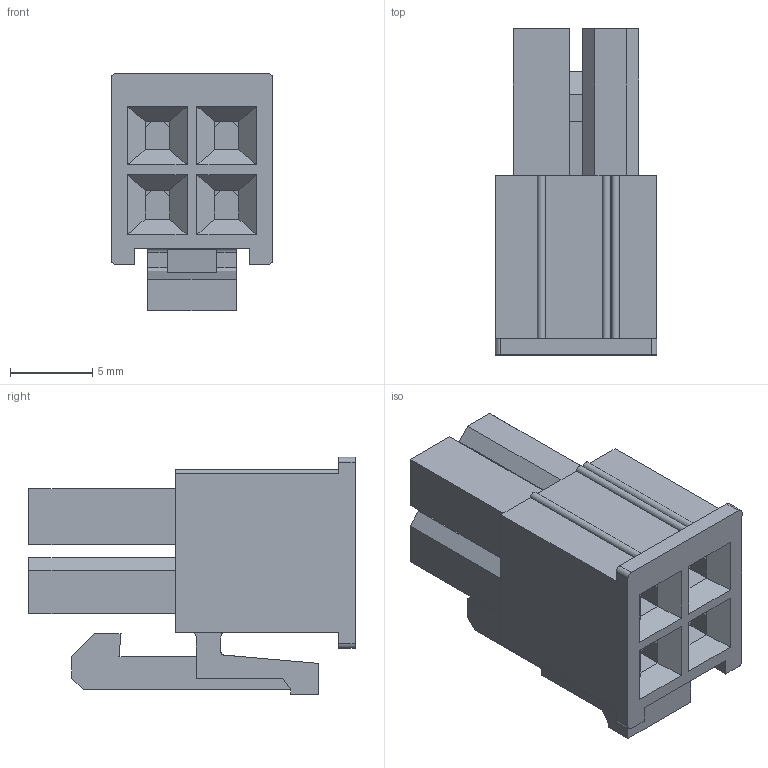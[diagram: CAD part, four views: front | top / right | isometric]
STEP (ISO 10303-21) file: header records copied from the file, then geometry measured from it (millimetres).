
FILE_DESCRIPTION (( 'STEP AP203' ), '1' );
FILE_NAME ('4973-04MHB-V0-1160311.STEP', '2026-03-11T02:08:15', ( '' ), ( '' ), 'SwSTEP 2.0', 'SolidWorks 2020', '' );
FILE_SCHEMA (( 'CONFIG_CONTROL_DESIGN' ));
Length unit declared in the file: millimetre
Products named in the file (2): 4973-04MHB-V0-1160311
Assembly tree (1 placements, depth 2):
  4973-04MHB-V0-1160311
    4973-04MHB-V0-1160311
Bounding box: 9.8 x 19.8 x 14.4 mm (x, y, z)
Volume: 1346.8 mm3; surface area: 1843.6 mm2
Topology: 1 solids, 1 shells, 231 faces, 623 edges, 406 vertices
Faces by surface type: plane 218, cylinder 13
Entity records: 7279 total; most frequent: CARTESIAN_POINT 1264, ORIENTED_EDGE 1246, DIRECTION 1119, EDGE_CURVE 623, VECTOR 597, LINE 597, VERTEX_POINT 406, AXIS2_PLACEMENT_3D 261
